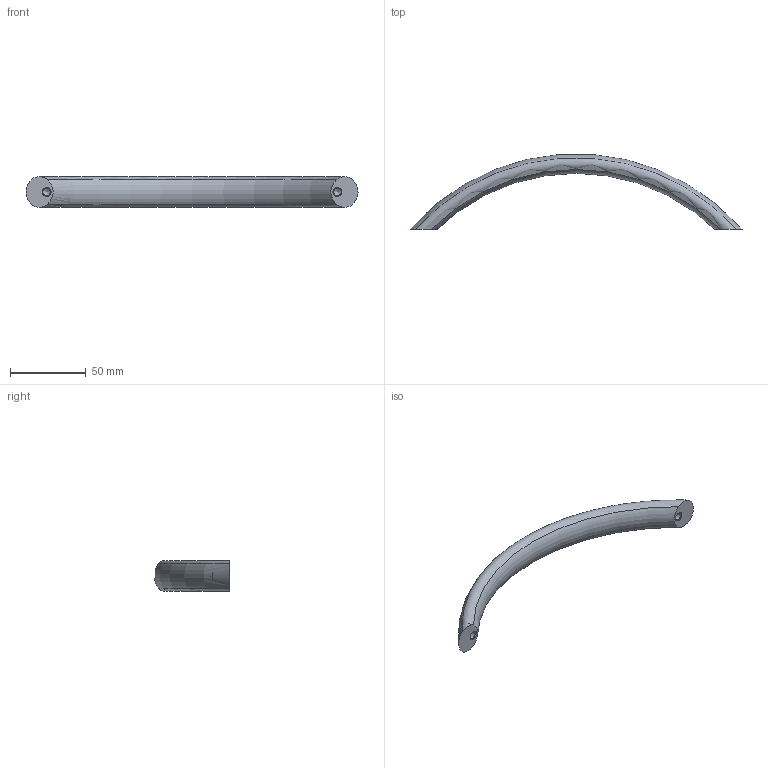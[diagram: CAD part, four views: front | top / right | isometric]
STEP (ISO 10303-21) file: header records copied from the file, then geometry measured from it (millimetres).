
FILE_DESCRIPTION( ( 'STEP AP203' ), '1' );
FILE_NAME( 'C:/Temp/Ganter_Step_05_03_2020/data/1_2/gn565_9/Stainless Steel-Arch handle GN 565.9-20-192-A-MT.stp', '2020-03-05T10:12:29', ( 'License CC BY-ND 4.0' ), ( 'CADENAS' ), ' ', 'PARTsolutions', ' ' );
FILE_SCHEMA( ( 'CONFIG_CONTROL_DESIGN' ) );
Length unit declared in the file: millimetre
Products named in the file (1): _Stainless Steel-Arch handle GN 565.9-20-192-A-MT
Bounding box: 219.29 x 49.51 x 20 mm (x, y, z)
Volume: 45730.9 mm3; surface area: 12768.1 mm2
Topology: 1 solids, 1 shells, 12 faces, 26 edges, 16 vertices
Faces by surface type: cone 4, torus 4, cylinder 2, plane 2
Full cylindrical faces by diameter (mm): 4.917 x2
Entity records: 498 total; most frequent: CARTESIAN_POINT 229, DIRECTION 46, ORIENTED_EDGE 36, AXIS2_PLACEMENT_3D 23, EDGE_LOOP 18, EDGE_CURVE 18, VERTEX_POINT 16, FACE_OUTER_BOUND 14
